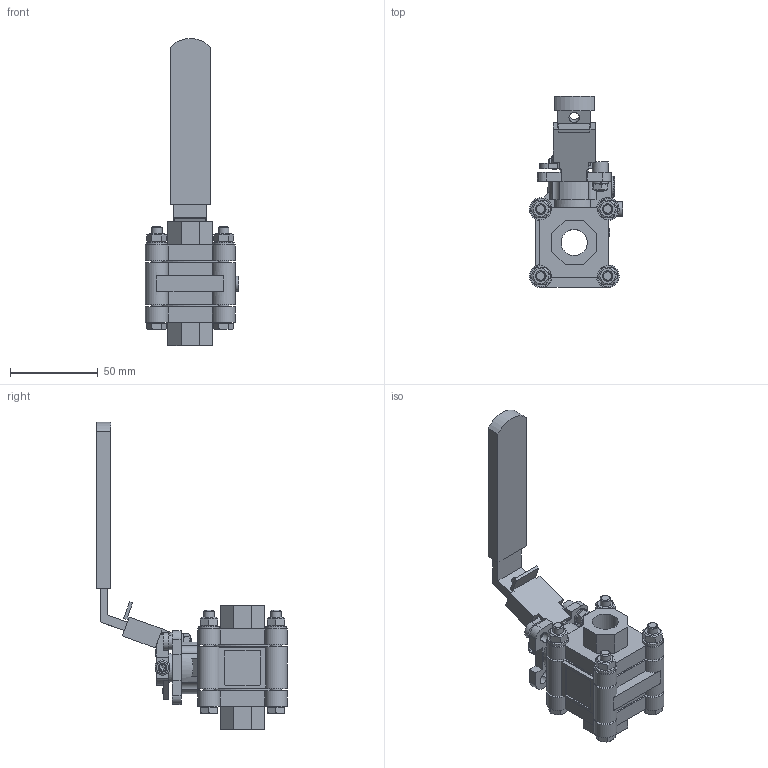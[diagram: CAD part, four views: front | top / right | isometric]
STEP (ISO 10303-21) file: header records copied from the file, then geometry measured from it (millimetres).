
FILE_DESCRIPTION(/* description */ ('Eriks item no: 13278899'),/* implementation_level */ '2;1');
FILE_NAME(/* name */ 'L:\DATA\ENG\Inventor\Econ 3D modellen\kogelkranen\7442\Rubens Versie\7442-DN10-FB.stp',/* time_stamp */ '2023-06-07T22:17:42+02:00',/* author */ ('roger.thijssen'),/* organization */ (''),/* preprocessor_version */ 'ST-DEVELOPER v18',/* originating_system */ 'Autodesk Inventor 2020',/* authorisation */ '');
FILE_SCHEMA (('CONFIG_CONTROL_DESIGN'));
Length unit declared in the file: millimetre
Products named in the file (1): Ball valve, 7442 - 3/8" - FB, (TF4103)
Bounding box: 53.18 x 108.78 x 175.3 mm (x, y, z)
Volume: 138325.8 mm3; surface area: 49263.1 mm2
Topology: 1 solids, 1 shells, 628 faces, 1671 edges, 1092 vertices
Faces by surface type: plane 389, cylinder 145, cone 62, bspline 30, sphere 1, torus 1
Full cylindrical faces by diameter (mm): 5 x4, 5.5 x1, 6 x9, 7 x12, 8.5 x1, 8.566 x1, 8.9 x4, 9 x1, 12 x1, 14.95 x2, 15 x1, 23 x1, 25 x1, 29 x1, 39.5 x2
Entity records: 20094 total; most frequent: CARTESIAN_POINT 4305, ORIENTED_EDGE 3340, DIRECTION 3150, EDGE_CURVE 1670, AXIS2_PLACEMENT_3D 1101, VERTEX_POINT 1092, LINE 948, VECTOR 948
